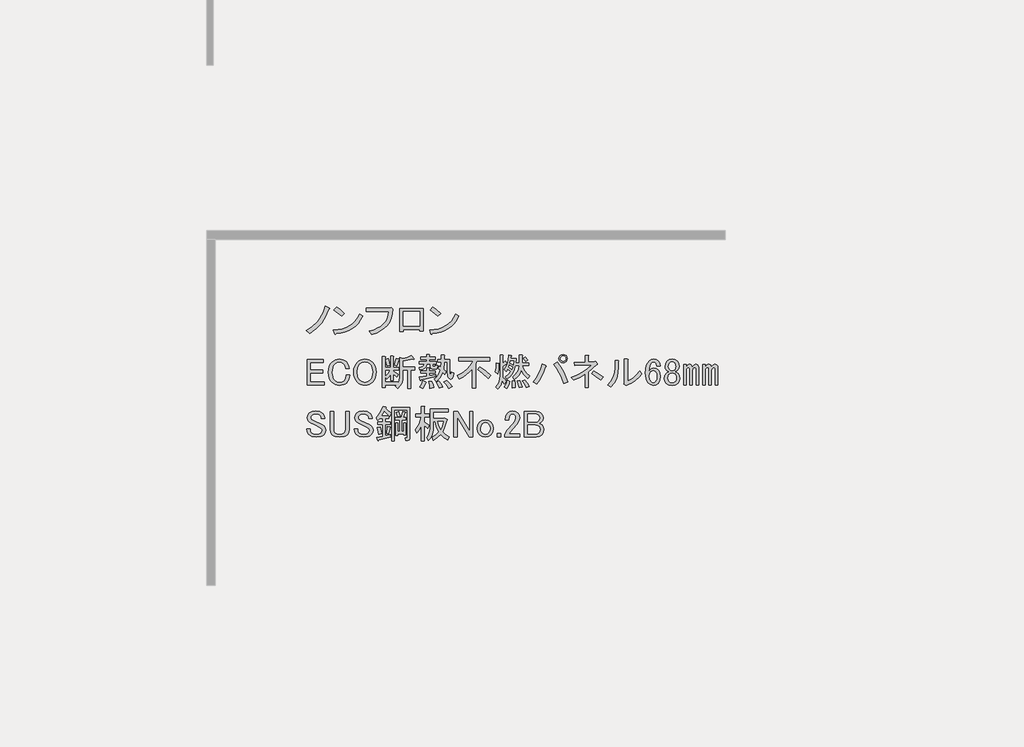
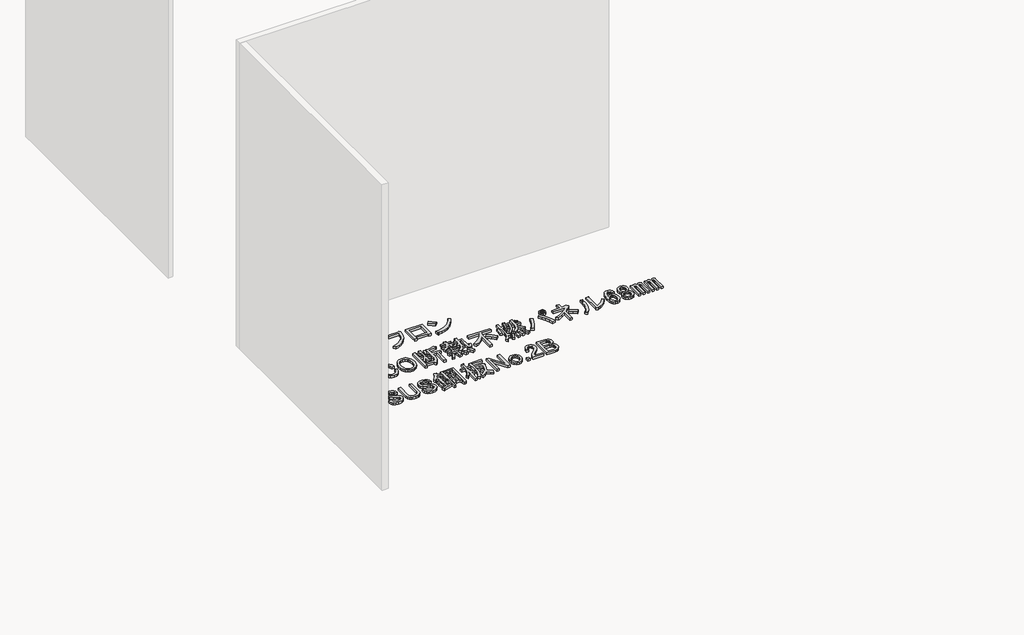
# One storey, part 103 of 117: 1 proxy.
"""IFC4 building model written with IfcOpenShell, lengths in millimetres."""

from ifc_helpers import new_model, si_unit, frame, origin, place, context, project, spatial, polyline, outline, extrude, element, save

model = new_model("IFC4")

# Units and contexts
model_context = context("Model", 3, world=origin())
ifc_project = project(units=[si_unit("LENGTHUNIT", "METRE", prefix="MILLI")], contexts=[model_context])

# Site, building, storey
site = spatial("IfcSite", under=ifc_project)
building = spatial("IfcBuilding", under=site)
storey = spatial("IfcBuildingStorey", under=building, Name="レベル 1", Elevation=500.0)

# Proxy
placement = place(None, origin())
element("IfcBuildingElementProxy", 1, Name="200㎜\u3000MS Pゴシック", ObjectType="200㎜\u3000MS Pゴシック", at=placement, inside=storey, context=model_context, shape_type="SweptSolid", body=[
    extrude(outline(polyline([(40940.1706985, 3396.4503118), (40914.5952502, 3336.6784775), (40886.146156, 3290.7001434), (40844.4782907, 3245.2965385), (40795.3389462, 3207.939142), (40767.7519457, 3229.7788507), (40815.4544673, 3260.2394971), (40855.1107805, 3298.7463519), (40872.4963381, 3322.6694538), (40887.8703435, 3350.7593423), (40901.2327969, 3383.0160173), (40912.5836981, 3419.4394788), (40943.6190736, 3405.6459786), (40946.7800841, 3401.0481452), (40940.1706985, 3396.4503118)])), frame((0.0, 0.0, 500.0), z_axis=(0.0, 0.0, 1.0), x_axis=(1.0, 0.0, 0.0)), (0.0, 0.0, 1.0), 25.0),
    extrude(outline(polyline([(41039.8977052, 3341.2763109), (40981.2753292, 3388.4041033), (41000.8161212, 3412.5427287), (41028.1157571, 3392.7145721), (41061.7374138, 3363.1160196), (41039.8977052, 3341.2763109)])), frame((0.0, 0.0, 500.0), z_axis=(0.0, 0.0, 1.0), x_axis=(1.0, 0.0, 0.0)), (0.0, 0.0, 1.0), 25.0),
    extrude(outline(polyline([(41201.9713328, 3341.2763109), (41185.447869, 3311.534076), (41166.3381239, 3285.5275808), (41144.6420975, 3263.2568252), (41120.3597898, 3244.7218093), (41093.4912008, 3229.922533), (41064.0363306, 3218.8589964), (41031.995179, 3211.5311994), (40997.3677461, 3207.939142), (40991.6204544, 3199.8929336), (40985.8731626, 3205.6402253), (40976.6774958, 3235.5261425), (41012.5082679, 3238.2022252), (41045.2857912, 3244.5062859), (41075.0100658, 3254.4383244), (41101.6810916, 3267.9983409), (41125.2988687, 3285.1863354), (41145.863397, 3306.0023077), (41163.3746766, 3330.446258), (41177.8327074, 3358.5181862), (41201.9713328, 3341.2763109)])), frame((0.0, 0.0, 500.0), z_axis=(0.0, 0.0, 1.0), x_axis=(1.0, 0.0, 0.0)), (0.0, 0.0, 1.0), 25.0),
    extrude(outline(polyline([(41252.7314136, 3226.3304757), (41286.514713, 3236.0110702), (41316.0234641, 3248.3857078), (41341.257667, 3263.4543884), (41362.2173217, 3281.217112), (41378.902428, 3301.6738786), (41391.3129862, 3324.8246882), (41399.4489961, 3350.6695409), (41403.3104577, 3379.2084365), (41230.8917049, 3379.2084365), (41230.8917049, 3404.4965202), (41405.6093744, 3404.4965202), (41421.7017914, 3407.9448953), (41434.3458332, 3396.4503118), (41430.825617, 3359.9550091), (41422.5638851, 3326.9080815), (41409.5606375, 3297.3095289), (41391.8158742, 3271.1593514), (41369.3295952, 3248.457549), (41342.1018005, 3229.2041216), (41310.1324901, 3213.3990692), (41273.421664, 3201.0423919), (41252.7314136, 3226.3304757)])), frame((0.0, 0.0, 500.0), z_axis=(0.0, 0.0, 1.0), x_axis=(1.0, 0.0, 0.0)), (0.0, 0.0, 1.0), 25.0),
    extrude(outline(polyline([(41667.455987, 3227.479934), (41641.0184449, 3227.479934), (41641.0184449, 3240.1239759), (41513.4285679, 3240.1239759), (41513.4285679, 3221.7326423), (41486.9910258, 3221.7326423), (41486.9910258, 3401.0481452), (41667.455987, 3401.0481452), (41667.455987, 3227.479934)]), holes=[polyline([(41513.4285679, 3375.7600614), (41513.4285679, 3265.4120596), (41641.0184449, 3265.4120596), (41641.0184449, 3375.7600614), (41513.4285679, 3375.7600614)])]), frame((0.0, 0.0, 500.0), z_axis=(0.0, 0.0, 1.0), x_axis=(1.0, 0.0, 0.0)), (0.0, 0.0, 1.0), 25.0),
    extrude(outline(polyline([(41943.5099049, 3341.2763109), (41926.9864411, 3311.534076), (41907.876696, 3285.5275808), (41886.1806696, 3263.2568252), (41861.8983619, 3244.7218093), (41835.0297729, 3229.922533), (41805.5749026, 3218.8589964), (41773.5337511, 3211.5311994), (41738.9063182, 3207.939142), (41733.1590264, 3199.8929336), (41727.4117347, 3205.6402253), (41718.2160679, 3235.5261425), (41754.0468399, 3238.2022252), (41786.8243633, 3244.5062859), (41816.5486378, 3254.4383244), (41843.2196637, 3267.9983409), (41866.8374407, 3285.1863354), (41887.4019691, 3306.0023077), (41904.9132486, 3330.446258), (41919.3712795, 3358.5181862), (41943.5099049, 3341.2763109)])), frame((0.0, 0.0, 500.0), z_axis=(0.0, 0.0, 1.0), x_axis=(1.0, 0.0, 0.0)), (0.0, 0.0, 1.0), 25.0),
    extrude(outline(polyline([(41781.4362772, 3341.2763109), (41722.8139013, 3388.4041033), (41742.3546933, 3412.5427287), (41769.6543291, 3392.7145721), (41803.2759859, 3363.1160196), (41781.4362772, 3341.2763109)])), frame((0.0, 0.0, 500.0), z_axis=(0.0, 0.0, 1.0), x_axis=(1.0, 0.0, 0.0)), (0.0, 0.0, 1.0), 25.0),
    extrude(outline(polyline([(40773.4992375, 3007.9448953), (40899.9396562, 3007.9448953), (40899.9396562, 2986.1051866), (40799.9367796, 2986.1051866), (40799.9367796, 2925.183894), (40893.0429061, 2925.183894), (40893.0429061, 2903.3441853), (40799.9367796, 2903.3441853), (40799.9367796, 2833.2272258), (40905.686948, 2833.2272258), (40905.686948, 2811.3875171), (40773.4992375, 2811.3875171), (40773.4992375, 3007.9448953)])), frame((0.0, 0.0, 500.0), z_axis=(0.0, 0.0, 1.0), x_axis=(1.0, 0.0, 0.0)), (0.0, 0.0, 1.0), 25.0),
    extrude(outline(polyline([(40937.7798252, 2909.091477), (40939.5758538, 2933.014579), (40944.9639399, 2954.2077173), (40953.9440832, 2972.6708921), (40966.516284, 2988.4041033), (40991.5170031, 3004.7838848), (41022.8397432, 3010.243812), (41053.5877541, 3005.358614), (41076.8642858, 2990.70302), (41092.6693381, 2967.1391238), (41098.7039944, 2937.8279358), (41071.116994, 2937.8279358), (41066.231796, 2959.0929153), (41056.1740354, 2974.6106031), (41040.9437123, 2984.9557283), (41022.8397432, 2988.4041033), (41003.2989512, 2984.3809991), (40986.0570759, 2972.3116864), (40977.0050914, 2960.6015794), (40970.5393882, 2946.1615089), (40965.3668256, 2909.091477), (40970.5393882, 2872.0214452), (40977.0050914, 2857.5813746), (40986.0570759, 2845.8712677), (41002.7242221, 2834.6640487), (41022.8397432, 2830.9283091), (41043.242629, 2834.0893196), (41058.4729521, 2843.572351), (41070.5422648, 2863.1131429), (41074.5653691, 2889.550685), (41102.1523695, 2889.550685), (41095.8303486, 2854.7795699), (41088.7899162, 2840.6268639), (41079.1632025, 2828.6293924), (41068.3151893, 2820.0802959), (41055.3119417, 2813.9737984), (41022.8397432, 2809.0886004), (40991.5170031, 2814.5485276), (40966.516284, 2830.9283091), (40953.9440832, 2846.5896791), (40944.9639399, 2864.8373305), (40939.5758538, 2885.6712631), (40937.7798252, 2909.091477)])), frame((0.0, 0.0, 500.0), z_axis=(0.0, 0.0, 1.0), x_axis=(1.0, 0.0, 0.0)), (0.0, 0.0, 1.0), 25.0),
    extrude(outline(polyline([(41133.1417667, 2910.2409354), (41134.8659542, 2933.0864201), (41140.0385168, 2953.3456236), (41148.6594544, 2971.0185457), (41160.7287671, 2986.1051866), (41173.4446501, 2996.6658352), (41187.4536738, 3004.2091557), (41202.7558381, 3008.7351479), (41219.3511431, 3010.243812), (41235.946448, 3008.7351479), (41251.2486123, 3004.2091557), (41265.257636, 2996.6658352), (41277.973519, 2986.1051866), (41290.0428317, 2971.0185457), (41298.6637694, 2953.3456236), (41303.836332, 2933.0864201), (41305.5605195, 2910.2409354), (41303.836332, 2887.3954506), (41298.6637694, 2867.1362472), (41290.0428317, 2849.463325), (41277.973519, 2834.3766841), (41265.257636, 2823.8160355), (41251.2486123, 2816.2727151), (41235.946448, 2811.7467228), (41219.3511431, 2810.2380587), (41202.7558381, 2811.7467228), (41187.4536738, 2816.2727151), (41173.4446501, 2823.8160355), (41160.7287671, 2834.3766841), (41148.6594544, 2849.463325), (41140.0385168, 2867.1362472), (41134.8659542, 2887.3954506), (41133.1417667, 2910.2409354)]), holes=[polyline([(41219.3511431, 2988.4041033), (41198.6608927, 2984.0936345), (41180.2695591, 2971.162228), (41171.7204626, 2960.0268502), (41165.6139651, 2946.1615089), (41160.7287671, 2910.2409354), (41165.6139651, 2874.3203619), (41171.7204626, 2860.4550205), (41180.2695591, 2849.3196427), (41198.6608927, 2836.3882363), (41219.3511431, 2832.0777674), (41240.0413934, 2836.3882363), (41258.432727, 2849.3196427), (41266.9818235, 2860.4550205), (41273.088321, 2874.3203619), (41277.973519, 2910.2409354), (41273.088321, 2946.1615089), (41266.9818235, 2960.0268502), (41258.432727, 2971.162228), (41240.0413934, 2984.0936345), (41219.3511431, 2988.4041033)])]), frame((0.0, 0.0, 500.0), z_axis=(0.0, 0.0, 1.0), x_axis=(1.0, 0.0, 0.0)), (0.0, 0.0, 1.0), 25.0),
    extrude(outline(polyline([(41444.3691101, 2964.2654779), (41461.6109854, 3017.1405621), (41482.3012357, 3011.3932704), (41484.0254232, 3008.2322599), (41480.002319, 3005.6459786), (41462.7604437, 2957.3687278), (41444.3691101, 2964.2654779)])), frame((0.0, 0.0, 500.0), z_axis=(0.0, 0.0, 1.0), x_axis=(1.0, 0.0, 0.0)), (0.0, 0.0, 1.0), 25.0),
    extrude(outline(polyline([(41598.3965292, 3012.5427287), (41596.6723417, 3007.9448953), (41589.2008624, 3010.243812), (41512.1871528, 2997.5997701), (41512.1871528, 2948.173061), (41604.143821, 2948.173061), (41604.143821, 2926.3333523), (41573.1084455, 2926.3333523), (41573.1084455, 2786.0994334), (41550.1192785, 2786.0994334), (41550.1192785, 2926.3333523), (41512.1871528, 2926.3333523), (41512.1871528, 2876.9066432), (41509.6008716, 2849.1041193), (41501.8420277, 2824.3189236), (41488.9106212, 2802.551056), (41470.8066522, 2783.8005167), (41453.5647769, 2803.3413086), (41463.9099021, 2812.5369755), (41374.2521506, 2812.5369755), (41374.2521506, 2790.6972668), (41351.2629836, 2790.6972668), (41351.2629836, 3029.784604), (41373.1026922, 3029.784604), (41377.9878902, 3027.4856873), (41374.2521506, 3022.8878539), (41374.2521506, 2947.0236026), (41416.7821096, 2947.0236026), (41416.7821096, 3034.3824374), (41435.1734433, 3034.3824374), (41440.0586413, 3032.0835207), (41436.3229016, 3027.4856873), (41436.3229016, 2947.0236026), (41480.002319, 2947.0236026), (41480.002319, 2928.632269), (41436.3229016, 2928.632269), (41436.3229016, 2919.4366022), (41476.5539439, 2892.9990601), (41462.7604437, 2871.1593514), (41436.3229016, 2897.5968935), (41436.3229016, 2844.7218093), (41416.7821096, 2844.7218093), (41416.7821096, 2892.9990601), (41403.5633386, 2873.1709035), (41389.1951092, 2857.3658512), (41376.5510673, 2875.7571848), (41398.390776, 2899.8958102), (41415.6326513, 2928.632269), (41374.2521506, 2928.632269), (41374.2521506, 2834.3766841), (41471.9561105, 2834.3766841), (41471.9561105, 2820.5831839), (41484.887517, 2844.7218093), (41489.1979858, 2878.0561015), (41489.1979858, 3022.8878539), (41511.0376945, 3017.1405621), (41547.2456326, 3024.6120414), (41577.7062789, 3037.8308125), (41598.3965292, 3012.5427287)])), frame((0.0, 0.0, 500.0), z_axis=(0.0, 0.0, 1.0), x_axis=(1.0, 0.0, 0.0)), (0.0, 0.0, 1.0), 25.0),
    extrude(outline(polyline([(41390.3445675, 2956.2192695), (41377.7005257, 3006.7954369), (41397.2413176, 3013.6921871), (41405.0001615, 2989.5535617), (41409.8853595, 2963.1160196), (41390.3445675, 2956.2192695)])), frame((0.0, 0.0, 500.0), z_axis=(0.0, 0.0, 1.0), x_axis=(1.0, 0.0, 0.0)), (0.0, 0.0, 1.0), 25.0),
    extrude(outline(polyline([(41734.0326148, 2840.1239759), (41744.0903754, 2812.82434), (41748.9755734, 2790.6972668), (41720.2391146, 2784.949975), (41717.6528333, 2806.5023191), (41709.8939894, 2836.6756008), (41734.0326148, 2840.1239759)])), frame((0.0, 0.0, 500.0), z_axis=(0.0, 0.0, 1.0), x_axis=(1.0, 0.0, 0.0)), (0.0, 0.0, 1.0), 25.0),
    extrude(outline(polyline([(41790.356074, 2787.2488917), (41782.022501, 2811.9622463), (41768.5163654, 2833.2272258), (41789.2066157, 2841.2734343), (41806.1611264, 2819.7210902), (41817.9430745, 2796.4445585), (41790.356074, 2787.2488917)])), frame((0.0, 0.0, 500.0), z_axis=(0.0, 0.0, 1.0), x_axis=(1.0, 0.0, 0.0)), (0.0, 0.0, 1.0), 25.0),
    extrude(outline(polyline([(41689.2037391, 2835.5261425), (41692.6521141, 2830.6409445), (41686.9048224, 2827.479934), (41677.1344264, 2801.9044857), (41666.214572, 2782.6510583), (41643.225405, 2794.1456418), (41655.8694469, 2817.709538), (41666.214572, 2844.7218093), (41689.2037391, 2835.5261425)])), frame((0.0, 0.0, 500.0), z_axis=(0.0, 0.0, 1.0), x_axis=(1.0, 0.0, 0.0)), (0.0, 0.0, 1.0), 25.0),
    extrude(outline(polyline([(41721.3885729, 2972.3116864), (41696.1004892, 2972.3116864), (41691.5026558, 2954.8542877), (41681.1575306, 2941.5636755), (41665.0651137, 2932.4398498), (41643.225405, 2927.4828107), (41638.6275716, 2947.0236026), (41663.9156553, 2955.6445403), (41671.3871346, 2962.9723373), (41675.4102388, 2972.3116864), (41639.7770299, 2972.3116864), (41639.7770299, 2990.70302), (41693.8015725, 2990.70302), (41693.8015725, 3007.9448953), (41650.1221551, 3007.9448953), (41650.1221551, 3026.3362289), (41693.8015725, 3026.3362289), (41693.8015725, 3044.7275626), (41715.6412812, 3044.7275626), (41720.5264792, 3042.4286459), (41716.7907395, 3037.8308125), (41716.7907395, 3026.3362289), (41759.3206985, 3026.3362289), (41759.3206985, 3007.9448953), (41716.7907395, 3007.9448953), (41716.7907395, 2990.70302), (41769.6658237, 2990.70302), (41769.6658237, 2972.3116864), (41740.9293649, 2972.3116864), (41740.9293649, 2959.6676445), (41742.3661878, 2954.4950819), (41746.6766567, 2952.7708944), (41757.0217818, 2952.7708944), (41760.7575215, 2955.9319049), (41760.4701569, 2965.4149363), (41780.0109489, 2963.1160196), (41777.137303, 2941.5636755), (41771.8210581, 2936.1755894), (41763.9185319, 2934.3795608), (41739.7799066, 2934.3795608), (41725.9864063, 2939.2647588), (41721.3885729, 2953.9203528), (41721.3885729, 2972.3116864)])), frame((0.0, 0.0, 500.0), z_axis=(0.0, 0.0, 1.0), x_axis=(1.0, 0.0, 0.0)), (0.0, 0.0, 1.0), 25.0),
    extrude(outline(polyline([(41852.4268251, 2989.5535617), (41830.5871164, 2989.5535617), (41825.989283, 2932.0806441), (41845.5300749, 2913.6893104), (41835.1849498, 2891.8496017), (41819.0925328, 2907.9420187), (41799.8391054, 2870.2972576), (41769.6658237, 2837.8250592), (41752.4239484, 2858.5153095), (41767.5105893, 2870.4409399), (41780.585678, 2885.5275808), (41791.6492147, 2903.7752321), (41800.7011992, 2925.183894), (41783.4593239, 2940.1268525), (41791.5055324, 2957.3687278), (41805.2990326, 2947.0236026), (41807.5979493, 2989.5535617), (41780.0109489, 2989.5535617), (41780.0109489, 3007.9448953), (41807.5979493, 3007.9448953), (41807.5979493, 3042.4286459), (41829.437658, 3042.4286459), (41834.322856, 3040.1297292), (41830.5871164, 3035.5318957), (41830.5871164, 3007.9448953), (41871.967617, 3007.9448953), (41871.967617, 2911.3903937), (41875.4159921, 2887.2517683), (41878.6488437, 2885.2402162), (41881.4506484, 2888.4012267), (41885.7611173, 2910.2409354), (41905.3019092, 2903.3441853), (41900.775917, 2876.5474374), (41892.945232, 2860.5268616), (41881.8098542, 2855.2824579), (41867.3697836, 2860.8142262), (41860.8322393, 2868.1420232), (41856.1625647, 2879.780289), (41852.4268251, 2915.9882271), (41852.4268251, 2989.5535617)])), frame((0.0, 0.0, 500.0), z_axis=(0.0, 0.0, 1.0), x_axis=(1.0, 0.0, 0.0)), (0.0, 0.0, 1.0), 25.0),
    extrude(outline(polyline([(41651.2716134, 2850.4691011), (41649.2600613, 2845.5839031), (41645.5243217, 2847.020726), (41639.7770299, 2871.1593514), (41694.9510308, 2879.2055599), (41694.9510308, 2902.1947269), (41651.2716134, 2902.1947269), (41651.2716134, 2920.5860605), (41694.9510308, 2920.5860605), (41694.9510308, 2943.5752276), (41713.3423645, 2943.5752276), (41718.2275625, 2941.2763109), (41714.4918228, 2936.6784775), (41714.4918228, 2920.5860605), (41759.3206985, 2920.5860605), (41759.3206985, 2902.1947269), (41714.4918228, 2902.1947269), (41714.4918228, 2882.6539349), (41765.0679903, 2891.8496017), (41765.0679903, 2875.7571848), (41651.2716134, 2850.4691011)])), frame((0.0, 0.0, 500.0), z_axis=(0.0, 0.0, 1.0), x_axis=(1.0, 0.0, 0.0)), (0.0, 0.0, 1.0), 25.0),
    extrude(outline(polyline([(41848.97845, 2845.8712677), (41873.6918046, 2824.6062881), (41892.6578674, 2799.8929336), (41866.2203253, 2784.949975), (41846.9668979, 2814.5485276), (41828.2881997, 2834.3766841), (41848.97845, 2845.8712677)])), frame((0.0, 0.0, 500.0), z_axis=(0.0, 0.0, 1.0), x_axis=(1.0, 0.0, 0.0)), (0.0, 0.0, 1.0), 25.0),
    extrude(outline(polyline([(42167.3784135, 2861.9636846), (42128.2968295, 2900.1831748), (42086.9163289, 2929.7817274), (42103.0087458, 2950.4719777), (42146.6881632, 2922.3102481), (42188.0686638, 2883.8033933), (42167.3784135, 2861.9636846)])), frame((0.0, 0.0, 500.0), z_axis=(0.0, 0.0, 1.0), x_axis=(1.0, 0.0, 0.0)), (0.0, 0.0, 1.0), 25.0),
    extrude(outline(polyline([(41940.9351182, 3022.8878539), (42182.3213721, 3022.8878539), (42182.3213721, 2997.5997701), (42082.3184955, 2997.5997701), (42071.9733703, 2973.4611447), (42071.9733703, 2787.2488917), (42045.5358282, 2787.2488917), (42045.5358282, 2934.3795608), (42024.7018956, 2911.1030291), (42001.2816816, 2890.7001434), (41975.2751864, 2873.1709035), (41946.6824099, 2858.5153095), (41930.589993, 2884.9528516), (41970.174465, 2905.3557374), (42003.8679629, 2930.9311857), (42031.6704868, 2961.6791966), (42053.5820367, 2997.5997701), (41940.9351182, 2997.5997701), (41940.9351182, 3022.8878539)])), frame((0.0, 0.0, 500.0), z_axis=(0.0, 0.0, 1.0), x_axis=(1.0, 0.0, 0.0)), (0.0, 0.0, 1.0), 25.0),
    extrude(outline(polyline([(42354.7401249, 2788.3983501), (42355.3148541, 2815.4106213), (42352.4412082, 2843.572351), (42371.9820002, 2844.7218093), (42378.3040211, 2818.5716318), (42378.8787503, 2790.6972668), (42354.7401249, 2788.3983501)])), frame((0.0, 0.0, 500.0), z_axis=(0.0, 0.0, 1.0), x_axis=(1.0, 0.0, 0.0)), (0.0, 0.0, 1.0), 25.0),
    extrude(outline(polyline([(42335.1993329, 2840.1239759), (42326.5783953, 2809.6633296), (42312.2101659, 2782.6510583), (42292.6693739, 2795.2951002), (42306.7502387, 2820.0084547), (42316.8079993, 2848.1701844), (42335.1993329, 2840.1239759)])), frame((0.0, 0.0, 500.0), z_axis=(0.0, 0.0, 1.0), x_axis=(1.0, 0.0, 0.0)), (0.0, 0.0, 1.0), 25.0),
    extrude(outline(polyline([(42250.1394149, 2978.0589781), (42254.7372483, 2975.7600614), (42250.1394149, 2971.162228), (42248.9899565, 2931.5059149), (42243.2426647, 2897.5968935), (42224.8513311, 2910.2409354), (42230.5986229, 2944.7246859), (42231.7480812, 2981.5073532), (42250.1394149, 2978.0589781)])), frame((0.0, 0.0, 500.0), z_axis=(0.0, 0.0, 1.0), x_axis=(1.0, 0.0, 0.0)), (0.0, 0.0, 1.0), 25.0),
    extrude(outline(polyline([(42301.8650407, 2996.4503118), (42311.0607075, 2979.2084365), (42312.4975305, 2973.1737801), (42307.6123325, 2973.4611447), (42281.1747904, 2952.7708944), (42281.1747904, 2868.8604347), (42294.9682906, 2856.5037574), (42306.4628741, 2840.1239759), (42293.8188322, 2819.4337256), (42275.4274986, 2844.7218093), (42263.6455505, 2808.8012358), (42242.0932064, 2779.2026832), (42227.1502478, 2797.5940169), (42242.2368887, 2816.3445562), (42253.0130607, 2836.9629654), (42259.478764, 2859.4492444), (42261.6339984, 2883.8033933), (42261.6339984, 3041.2791875), (42280.025332, 3041.2791875), (42284.91053, 3038.9802708), (42281.1747904, 3034.3824374), (42281.1747904, 2975.7600614), (42301.8650407, 2996.4503118)])), frame((0.0, 0.0, 500.0), z_axis=(0.0, 0.0, 1.0), x_axis=(1.0, 0.0, 0.0)), (0.0, 0.0, 1.0), 25.0),
    extrude(outline(polyline([(42452.4440848, 3027.4856873), (42474.2837935, 3003.3470619), (42457.0419182, 2991.8524784), (42450.4325327, 3003.3470619), (42437.5011262, 3017.1405621), (42452.4440848, 3027.4856873)])), frame((0.0, 0.0, 500.0), z_axis=(0.0, 0.0, 1.0), x_axis=(1.0, 0.0, 0.0)), (0.0, 0.0, 1.0), 25.0),
    extrude(outline(polyline([(42462.78921, 2790.6972668), (42449.5704389, 2818.8589964), (42432.9032928, 2843.572351), (42451.2946265, 2851.6185594), (42470.2606893, 2828.6293924), (42485.778377, 2801.0423919), (42462.78921, 2790.6972668)])), frame((0.0, 0.0, 500.0), z_axis=(0.0, 0.0, 1.0), x_axis=(1.0, 0.0, 0.0)), (0.0, 0.0, 1.0), 25.0),
    extrude(outline(polyline([(42413.3625008, 2845.8712677), (42431.7538345, 2796.4445585), (42407.6152091, 2791.8467251), (42393.8217089, 2842.4228926), (42413.3625008, 2845.8712677)])), frame((0.0, 0.0, 500.0), z_axis=(0.0, 0.0, 1.0), x_axis=(1.0, 0.0, 0.0)), (0.0, 0.0, 1.0), 25.0),
    extrude(outline(polyline([(42474.2837935, 2860.8142262), (42443.5357826, 2891.2748726), (42422.5581677, 2925.183894), (42414.1527535, 2903.0568207), (42402.7300111, 2883.8033933), (42388.2899405, 2867.4236118), (42370.8325418, 2853.9174761), (42357.0390416, 2872.3088098), (42377.8729742, 2891.2030314), (42393.2469797, 2912.2524875), (42403.161058, 2935.457178), (42407.6152091, 2960.8171029), (42378.8787503, 2960.8171029), (42370.904383, 2930.2127742), (42357.3264062, 2902.7694561), (42338.1448199, 2878.4871484), (42313.3596242, 2857.3658512), (42300.7155823, 2873.4582681), (42326.5783953, 2895.0106122), (42342.096083, 2915.9882271), (42320.2563743, 2935.5290191), (42306.4628741, 2914.8387688), (42292.6693739, 2929.7817274), (42305.0978923, 2948.8196313), (42314.7964472, 2973.7485093), (42321.7650384, 3004.5683614), (42326.0036661, 3041.2791875), (42346.6939164, 3038.9802708), (42350.1422915, 3036.3939895), (42344.3949997, 3033.232979), (42342.096083, 3014.8416454), (42385.7755004, 3014.8416454), (42382.3271253, 2979.2084365), (42407.6152091, 2979.2084365), (42407.6152091, 3041.2791875), (42429.4549178, 3041.2791875), (42434.3401158, 3038.9802708), (42430.6043761, 3034.3824374), (42430.6043761, 2979.2084365), (42480.0310853, 2979.2084365), (42480.0310853, 2960.8171029), (42430.6043761, 2960.8171029), (42437.1419205, 2939.0492353), (42448.7083452, 2918.5745084), (42465.3036501, 2899.3929222), (42486.9278354, 2881.5044766), (42474.2837935, 2860.8142262)]), holes=[polyline([(42350.1422915, 2930.9311857), (42357.0390416, 2950.4719777), (42331.7509579, 2966.5643946), (42326.0036661, 2949.3225193), (42350.1422915, 2930.9311857)]), polyline([(42339.7971663, 2996.4503118), (42336.3487913, 2980.3578948), (42361.636875, 2966.5643946), (42366.2347084, 2996.4503118), (42339.7971663, 2996.4503118)])]), frame((0.0, 0.0, 500.0), z_axis=(0.0, 0.0, 1.0), x_axis=(1.0, 0.0, 0.0)), (0.0, 0.0, 1.0), 25.0),
    extrude(outline(polyline([(42699.5776305, 2987.254645), (42726.230696, 2950.5438188), (42748.7169751, 2912.8272167), (42767.0364675, 2874.1048384), (42781.1891735, 2834.3766841), (42750.153798, 2824.031559), (42734.7079514, 2867.1362472), (42717.1068704, 2905.643102), (42697.350555, 2939.5521234), (42675.4390051, 2968.8633113), (42699.5776305, 2987.254645)])), frame((0.0, 0.0, 500.0), z_axis=(0.0, 0.0, 1.0), x_axis=(1.0, 0.0, 0.0)), (0.0, 0.0, 1.0), 25.0),
    extrude(outline(polyline([(42612.2187958, 2960.8171029), (42616.2419, 2955.3571757), (42609.919879, 2950.4719777), (42597.9942486, 2915.0542922), (42582.9076078, 2881.217112), (42564.6599564, 2848.960437), (42543.2512946, 2818.2842672), (42516.8137525, 2835.5261425), (42540.018443, 2866.9925649), (42559.056347, 2900.4705394), (42573.9274644, 2935.960066), (42584.6317953, 2973.4611447), (42612.2187958, 2960.8171029)])), frame((0.0, 0.0, 500.0), z_axis=(0.0, 0.0, 1.0), x_axis=(1.0, 0.0, 0.0)), (0.0, 0.0, 1.0), 25.0),
    extrude(outline(polyline([(42745.5559646, 2981.5073532), (42732.9119227, 2983.8062699), (42722.5667975, 2990.70302), (42715.6700474, 3001.0481452), (42713.3711307, 3013.6921871), (42715.6700474, 3026.3362289), (42722.5667975, 3036.6813541), (42732.9119227, 3043.5781042), (42745.5559646, 3045.8770209), (42758.2000065, 3043.5781042), (42768.5451316, 3036.6813541), (42775.4418817, 3026.3362289), (42777.7407984, 3013.6921871), (42775.4418817, 3001.0481452), (42768.5451316, 2990.70302), (42758.2000065, 2983.8062699), (42745.5559646, 2981.5073532)]), holes=[polyline([(42745.5559646, 2993.0019367), (42753.8895376, 2994.4387597), (42760.4989232, 2998.7492285), (42764.809392, 3005.358614), (42766.2462149, 3013.6921871), (42764.809392, 3022.0257601), (42760.4989232, 3028.6351456), (42753.8895376, 3032.9456145), (42745.5559646, 3034.3824374), (42737.2223915, 3032.9456145), (42730.613006, 3028.6351456), (42726.3025372, 3022.0257601), (42724.8657143, 3013.6921871), (42726.3025372, 3005.358614), (42730.613006, 2998.7492285), (42737.2223915, 2994.4387597), (42745.5559646, 2993.0019367)])]), frame((0.0, 0.0, 500.0), z_axis=(0.0, 0.0, 1.0), x_axis=(1.0, 0.0, 0.0)), (0.0, 0.0, 1.0), 25.0),
    extrude(outline(polyline([(42989.2411352, 2991.8524784), (42996.1378853, 2994.1513951), (43008.7819272, 2976.9095198), (43009.9313856, 2970.8748634), (43004.1840938, 2968.8633113), (42940.9638844, 2912.5398521), (42940.9638844, 2791.8467251), (42914.5263423, 2791.8467251), (42914.5263423, 2894.1485184), (42874.2953, 2870.0098931), (42829.4664243, 2848.1701844), (42809.9256323, 2868.8604347), (42855.4729195, 2888.3293855), (42896.7097379, 2911.1030291), (42933.6360874, 2937.1813655), (42966.2519682, 2966.5643946), (42836.3631744, 2960.8171029), (42832.9147993, 2986.1051866), (42914.5263423, 2988.4041033), (42914.5263423, 3040.1297292), (42937.5155094, 3040.1297292), (42943.5501657, 3036.6813541), (42940.9638844, 3030.9340623), (42940.9638844, 2989.5535617), (42989.2411352, 2991.8524784)])), frame((0.0, 0.0, 500.0), z_axis=(0.0, 0.0, 1.0), x_axis=(1.0, 0.0, 0.0)), (0.0, 0.0, 1.0), 25.0),
    extrude(outline(polyline([(43035.2194693, 2848.1701844), (42998.1494375, 2877.4813723), (42965.1025098, 2898.7463519), (42982.3443851, 2920.5860605), (43021.1386045, 2897.3095289), (43054.7602613, 2871.1593514), (43035.2194693, 2848.1701844)])), frame((0.0, 0.0, 500.0), z_axis=(0.0, 0.0, 1.0), x_axis=(1.0, 0.0, 0.0)), (0.0, 0.0, 1.0), 25.0),
    extrude(outline(polyline([(43242.2139293, 2841.2734343), (43266.9991251, 2853.4864292), (43290.7785447, 2870.5846222), (43313.5521883, 2892.5680132), (43335.3200559, 2919.4366022), (43351.4124728, 2897.5968935), (43328.1359412, 2869.7943696), (43301.9857636, 2846.1586322), (43272.9619403, 2826.6896814), (43241.064471, 2811.3875171), (43231.8688042, 2806.7896837), (43213.4774705, 2820.5831839), (43215.7763872, 2826.3304757), (43215.7763872, 3011.3932704), (43239.9150126, 3011.3932704), (43245.6623044, 3007.9448953), (43242.2139293, 3002.1976035), (43242.2139293, 2841.2734343)])), frame((0.0, 0.0, 500.0), z_axis=(0.0, 0.0, 1.0), x_axis=(1.0, 0.0, 0.0)), (0.0, 0.0, 1.0), 25.0),
    extrude(outline(polyline([(43088.1865102, 2810.2380587), (43113.3309116, 2839.4774056), (43131.2911984, 2872.0214452), (43142.0673704, 2907.8701775), (43145.6594278, 2947.0236026), (43145.6594278, 2998.7492285), (43169.7980532, 2998.7492285), (43175.5453449, 2995.3008534), (43172.0969699, 2989.5535617), (43172.0969699, 2948.173061), (43168.2893891, 2902.4102504), (43156.8666467, 2861.67632), (43137.8287427, 2825.9712699), (43111.1756772, 2795.2951002), (43088.1865102, 2810.2380587)])), frame((0.0, 0.0, 500.0), z_axis=(0.0, 0.0, 1.0), x_axis=(1.0, 0.0, 0.0)), (0.0, 0.0, 1.0), 25.0),
    extrude(outline(polyline([(43380.1489316, 2905.643102), (43381.8731191, 2935.0261311), (43387.0456817, 2959.9550091), (43395.6666193, 2980.429736), (43407.735932, 2996.4503118), (43423.2536198, 3006.7954369), (43442.2196826, 3010.243812), (43462.0478392, 3006.7954369), (43477.8528915, 2996.4503118), (43489.0601104, 2979.4958011), (43492.7958501, 2958.5181862), (43466.358308, 2958.5181862), (43464.6341205, 2972.3116864), (43459.4615579, 2981.5073532), (43451.702714, 2986.6799158), (43442.2196826, 2988.4041033), (43432.7366512, 2986.6799158), (43424.9778073, 2981.5073532), (43416.9315989, 2970.5874989), (43411.1843071, 2956.2192695), (43406.5864737, 2917.1376855), (43418.0810572, 2932.0806441), (43429.5756407, 2939.8394879), (43443.3691409, 2942.4257692), (43462.3352038, 2938.9773942), (43477.8528915, 2928.632269), (43490.784298, 2907.0799249), (43495.0947668, 2876.9066432), (43490.4969334, 2845.5839031), (43476.7034332, 2822.8821006), (43460.3236516, 2812.5369755), (43438.7713075, 2809.0886004), (43418.943151, 2813.3990692), (43400.8391819, 2826.3304757), (43391.7871974, 2839.0463587), (43385.3214942, 2856.5037574), (43380.1489316, 2905.643102)]), holes=[polyline([(43441.0702242, 2921.7355189), (43430.4377345, 2919.7239668), (43421.5294323, 2913.6893104), (43412.0464009, 2898.7463519), (43408.8853904, 2879.2055599), (43412.3337654, 2855.0669345), (43422.6788906, 2837.8250592), (43431.0124637, 2831.7904028), (43439.9207659, 2829.7788507), (43449.4037973, 2831.5030383), (43457.1626412, 2836.6756008), (43464.921485, 2851.905924), (43467.5077663, 2876.9066432), (43464.921485, 2899.321081), (43457.1626412, 2913.6893104), (43449.1164327, 2919.7239668), (43441.0702242, 2921.7355189)])]), frame((0.0, 0.0, 500.0), z_axis=(0.0, 0.0, 1.0), x_axis=(1.0, 0.0, 0.0)), (0.0, 0.0, 1.0), 25.0),
    extrude(outline(polyline([(43530.7279757, 2955.0698111), (43534.7510799, 2978.0589781), (43546.8203926, 2996.4503118), (43563.2001741, 3006.7954369), (43584.7525182, 3010.243812), (43606.5922269, 3006.5080724), (43623.8341022, 2995.3008534), (43635.0413212, 2977.7716136), (43638.7770608, 2955.0698111), (43635.3286857, 2936.9658421), (43624.9835606, 2921.7355189), (43611.1900603, 2913.6893104), (43611.1900603, 2911.3903937), (43621.2478209, 2907.3672895), (43630.7308523, 2899.8958102), (43641.0759775, 2883.8033933), (43644.5243526, 2863.1131429), (43640.5012483, 2841.8481634), (43628.4319356, 2824.031559), (43610.040602, 2812.82434), (43584.7525182, 2809.0886004), (43559.4644345, 2812.82434), (43541.0731009, 2824.031559), (43529.0037882, 2841.8481634), (43524.9806839, 2863.1131429), (43528.429059, 2883.8033933), (43538.7741842, 2899.8958102), (43548.2572156, 2907.3672895), (43558.3149762, 2911.3903937), (43558.3149762, 2913.6893104), (43543.3720176, 2924.0344356), (43533.8889862, 2938.1153004), (43530.7279757, 2955.0698111)]), holes=[polyline([(43584.7525182, 2989.5535617), (43574.1200285, 2987.5420095), (43565.2117263, 2981.5073532), (43558.3149762, 2970.3001343), (43556.0160594, 2955.0698111), (43558.3149762, 2940.7015817), (43565.2117263, 2929.7817274), (43573.8326639, 2923.747071), (43583.6030599, 2921.7355189), (43595.6723726, 2923.4597064), (43604.2933102, 2928.632269), (43611.1900603, 2939.8394879), (43613.488977, 2955.0698111), (43611.1900603, 2970.3001343), (43604.2933102, 2981.5073532), (43595.385008, 2987.5420095), (43584.7525182, 2989.5535617)]), polyline([(43584.7525182, 2902.1947269), (43571.2463826, 2899.8958102), (43560.6138929, 2892.9990601), (43553.7171427, 2881.7918412), (43551.418226, 2866.561518), (43554.0045073, 2851.0438302), (43561.7633512, 2838.9745175), (43572.1084764, 2832.0777674), (43584.7525182, 2829.7788507), (43597.3965601, 2832.0777674), (43607.7416853, 2838.9745175), (43615.5005292, 2851.0438302), (43618.0868105, 2866.561518), (43615.5005292, 2882.0792058), (43607.7416853, 2894.1485184), (43597.9712893, 2900.1831748), (43584.7525182, 2902.1947269)])]), frame((0.0, 0.0, 500.0), z_axis=(0.0, 0.0, 1.0), x_axis=(1.0, 0.0, 0.0)), (0.0, 0.0, 1.0), 25.0),
    extrude(outline(polyline([(43692.8016033, 2810.2380587), (43673.2608114, 2810.2380587), (43673.2608114, 2967.713853), (43692.8016033, 2967.713853), (43692.8016033, 2950.4719777), (43704.870916, 2965.9896654), (43718.0896871, 2971.162228), (43727.2853539, 2969.7254051), (43734.182104, 2965.4149363), (43741.0788541, 2951.621436), (43754.0102606, 2966.27703), (43767.5163962, 2971.162228), (43775.8499693, 2969.7254051), (43782.4593548, 2965.4149363), (43787.6319174, 2956.7939986), (43789.3561049, 2944.7246859), (43789.3561049, 2810.2380587), (43769.8153129, 2810.2380587), (43769.8153129, 2934.3795608), (43767.2290316, 2943.8625922), (43759.4701878, 2947.0236026), (43749.1250626, 2942.4257692), (43743.0904062, 2933.8048316), (43741.0788541, 2924.0344356), (43741.0788541, 2810.2380587), (43721.5380621, 2810.2380587), (43721.5380621, 2934.3795608), (43718.9517808, 2943.8625922), (43711.192937, 2947.0236026), (43700.8478118, 2942.4257692), (43694.8131555, 2933.8048316), (43692.8016033, 2924.0344356), (43692.8016033, 2810.2380587)])), frame((0.0, 0.0, 500.0), z_axis=(0.0, 0.0, 1.0), x_axis=(1.0, 0.0, 0.0)), (0.0, 0.0, 1.0), 25.0),
    extrude(outline(polyline([(43914.6470653, 2971.162228), (43922.9806383, 2969.7254051), (43929.5900239, 2965.4149363), (43934.7625864, 2956.7939986), (43936.486774, 2944.7246859), (43936.486774, 2810.2380587), (43916.945982, 2810.2380587), (43916.945982, 2934.3795608), (43914.3597007, 2943.8625922), (43906.6008568, 2947.0236026), (43896.2557317, 2942.4257692), (43890.2210753, 2933.8048316), (43888.2095232, 2924.0344356), (43888.2095232, 2810.2380587), (43868.6687312, 2810.2380587), (43868.6687312, 2934.3795608), (43866.0824499, 2943.8625922), (43858.323606, 2947.0236026), (43847.9784809, 2942.4257692), (43841.9438245, 2933.8048316), (43839.9322724, 2924.0344356), (43839.9322724, 2810.2380587), (43820.3914804, 2810.2380587), (43820.3914804, 2967.713853), (43839.9322724, 2967.713853), (43839.9322724, 2950.4719777), (43852.0015851, 2965.9896654), (43865.2203561, 2971.162228), (43874.416023, 2969.7254051), (43881.3127731, 2965.4149363), (43888.2095232, 2951.621436), (43901.1409296, 2966.27703), (43914.6470653, 2971.162228)])), frame((0.0, 0.0, 500.0), z_axis=(0.0, 0.0, 1.0), x_axis=(1.0, 0.0, 0.0)), (0.0, 0.0, 1.0), 25.0),
    extrude(outline(polyline([(40775.7981542, 2556.2192695), (40779.8212584, 2576.6221552), (40791.8905711, 2594.1513951), (40812.2934569, 2606.2207078), (40841.3172803, 2610.243812), (40872.6400204, 2605.6459786), (40895.3418228, 2591.8524784), (40907.4111355, 2574.3232385), (40911.4342397, 2553.9203528), (40884.9966976, 2553.9203528), (40882.6977809, 2566.5643946), (40875.8010308, 2576.9095198), (40862.5822598, 2584.6683637), (40843.616197, 2587.254645), (40823.2133112, 2584.9557283), (40810.2819048, 2578.0589781), (40804.2472484, 2569.4380405), (40802.2356963, 2559.6676445), (40806.8335297, 2544.7246859), (40827.52378, 2533.2301024), (40887.2956143, 2506.7925603), (40904.5374896, 2495.2979768), (40914.020521, 2481.5044766), (40917.1815315, 2465.4120596), (40913.1584273, 2444.1470801), (40901.0891146, 2426.3304757), (40891.1031951, 2418.7871552), (40878.3873121, 2413.3990692), (40844.7656553, 2409.0886004), (40811.1439985, 2414.261163), (40797.5660217, 2420.7268662), (40786.1432794, 2429.7788507), (40774.9360604, 2448.1701844), (40771.2003208, 2473.4582681), (40797.6378629, 2473.4582681), (40799.9367796, 2455.6416637), (40806.8335297, 2443.572351), (40822.9259466, 2434.0893196), (40845.9151137, 2430.9283091), (40866.8927286, 2433.801955), (40881.5483226, 2442.4228926), (40888.4450727, 2451.6185594), (40890.7439894, 2460.8142262), (40889.0198019, 2470.2972576), (40883.8472393, 2478.0561015), (40865.4559057, 2489.550685), (40835.5699885, 2503.3441853), (40802.2356963, 2518.2871438), (40786.1432794, 2528.632269), (40778.3844355, 2540.7015817), (40775.7981542, 2556.2192695)])), frame((0.0, 0.0, 500.0), z_axis=(0.0, 0.0, 1.0), x_axis=(1.0, 0.0, 0.0)), (0.0, 0.0, 1.0), 25.0),
    extrude(outline(polyline([(40951.2054987, 2607.9448953), (40977.6430408, 2607.9448953), (40977.6430408, 2470.0098931), (40980.2293221, 2455.3542991), (40987.988166, 2443.572351), (41003.5058537, 2434.0893196), (41024.7708332, 2430.9283091), (41046.0358128, 2434.0893196), (41061.5535005, 2443.572351), (41069.3123444, 2455.3542991), (41071.8986257, 2470.0098931), (41071.8986257, 2607.9448953), (41098.3361678, 2607.9448953), (41098.3361678, 2468.8604347), (41094.3130635, 2445.8712677), (41082.2437508, 2427.479934), (41071.7549434, 2419.4337256), (41058.6798546, 2413.6864338), (41024.7708332, 2409.0886004), (40990.8618119, 2413.6864338), (40977.7867231, 2419.4337256), (40967.2979156, 2427.479934), (40955.2286029, 2445.8712677), (40951.2054987, 2468.8604347), (40951.2054987, 2607.9448953)])), frame((0.0, 0.0, 500.0), z_axis=(0.0, 0.0, 1.0), x_axis=(1.0, 0.0, 0.0)), (0.0, 0.0, 1.0), 25.0),
    extrude(outline(polyline([(41140.6822135, 2556.2192695), (41144.7053177, 2576.6221552), (41156.7746304, 2594.1513951), (41177.1775161, 2606.2207078), (41206.2013395, 2610.243812), (41237.5240796, 2605.6459786), (41260.2258821, 2591.8524784), (41272.2951948, 2574.3232385), (41276.318299, 2553.9203528), (41249.8807569, 2553.9203528), (41247.5818402, 2566.5643946), (41240.6850901, 2576.9095198), (41227.466319, 2584.6683637), (41208.5002562, 2587.254645), (41188.0973705, 2584.9557283), (41175.165964, 2578.0589781), (41169.1313077, 2569.4380405), (41167.1197556, 2559.6676445), (41171.717589, 2544.7246859), (41192.4078393, 2533.2301024), (41252.1796736, 2506.7925603), (41269.4215489, 2495.2979768), (41278.9045803, 2481.5044766), (41282.0655908, 2465.4120596), (41278.0424865, 2444.1470801), (41265.9731738, 2426.3304757), (41255.9872544, 2418.7871552), (41243.2713714, 2413.3990692), (41209.6497146, 2409.0886004), (41176.0280578, 2414.261163), (41162.450081, 2420.7268662), (41151.0273386, 2429.7788507), (41139.8201197, 2448.1701844), (41136.0843801, 2473.4582681), (41162.5219222, 2473.4582681), (41164.8208389, 2455.6416637), (41171.717589, 2443.572351), (41187.8100059, 2434.0893196), (41210.7991729, 2430.9283091), (41231.7767879, 2433.801955), (41246.4323819, 2442.4228926), (41253.329132, 2451.6185594), (41255.6280487, 2460.8142262), (41253.9038611, 2470.2972576), (41248.7312986, 2478.0561015), (41230.3399649, 2489.550685), (41200.4540478, 2503.3441853), (41167.1197556, 2518.2871438), (41151.0273386, 2528.632269), (41143.2684948, 2540.7015817), (41140.6822135, 2556.2192695)])), frame((0.0, 0.0, 500.0), z_axis=(0.0, 0.0, 1.0), x_axis=(1.0, 0.0, 0.0)), (0.0, 0.0, 1.0), 25.0),
    extrude(outline(polyline([(41410.3451429, 2568.8633113), (41368.9646422, 2612.5427287), (41347.1249335, 2573.4611447), (41402.2989344, 2573.4611447), (41402.2989344, 2555.0698111), (41375.8613923, 2555.0698111), (41375.8613923, 2526.3333523), (41413.7935179, 2526.3333523), (41413.7935179, 2507.9420187), (41375.8613923, 2507.9420187), (41375.8613923, 2420.5831839), (41414.9429763, 2430.9283091), (41417.241893, 2411.3875171), (41325.2852248, 2386.0994334), (41322.9863081, 2380.3521416), (41318.3884747, 2383.8005167), (41311.4917246, 2406.7896837), (41356.3206003, 2415.9853505), (41356.3206003, 2507.9420187), (41318.3884747, 2507.9420187), (41318.3884747, 2526.3333523), (41356.3206003, 2526.3333523), (41356.3206003, 2555.0698111), (41334.4808916, 2555.0698111), (41319.537933, 2536.6784775), (41306.8938912, 2557.3687278), (41335.0556208, 2595.0134888), (41359.7689754, 2645.8770209), (41381.6086841, 2640.1297292), (41385.0570591, 2636.3939895), (41379.3097674, 2634.3824374), (41378.160309, 2630.9340623), (41422.9891847, 2593.0019367), (41410.3451429, 2568.8633113)])), frame((0.0, 0.0, 500.0), z_axis=(0.0, 0.0, 1.0), x_axis=(1.0, 0.0, 0.0)), (0.0, 0.0, 1.0), 25.0),
    extrude(outline(polyline([(41478.1631856, 2605.6459786), (41485.3473003, 2590.4156554), (41490.8072275, 2570.0127697), (41473.5653522, 2564.2654779), (41462.0707687, 2601.0481452), (41478.1631856, 2605.6459786)])), frame((0.0, 0.0, 500.0), z_axis=(0.0, 0.0, 1.0), x_axis=(1.0, 0.0, 0.0)), (0.0, 0.0, 1.0), 25.0),
    extrude(outline(polyline([(41531.0382698, 2604.4965202), (41533.6245511, 2601.0481452), (41527.5898948, 2597.5997701), (41514.9458529, 2559.6676445), (41535.6361032, 2559.6676445), (41535.6361032, 2541.2763109), (41504.6007277, 2541.2763109), (41504.6007277, 2452.7680178), (41519.5436863, 2452.7680178), (41519.5436863, 2520.5860605), (41535.6361032, 2520.5860605), (41535.6361032, 2426.3304757), (41519.5436863, 2426.3304757), (41519.5436863, 2434.3766841), (41473.5653522, 2434.3766841), (41473.5653522, 2421.7326423), (41457.4729353, 2421.7326423), (41457.4729353, 2518.2871438), (41473.5653522, 2518.2871438), (41473.5653522, 2452.7680178), (41488.5083108, 2452.7680178), (41488.5083108, 2541.2763109), (41452.8751019, 2541.2763109), (41452.8751019, 2559.6676445), (41498.853436, 2559.6676445), (41509.1985611, 2609.0943537), (41531.0382698, 2604.4965202)])), frame((0.0, 0.0, 500.0), z_axis=(0.0, 0.0, 1.0), x_axis=(1.0, 0.0, 0.0)), (0.0, 0.0, 1.0), 25.0),
    extrude(outline(polyline([(41425.2881014, 2637.8308125), (41565.5220204, 2637.8308125), (41565.5220204, 2397.5940169), (41561.7862807, 2386.3867979), (41550.5790618, 2382.6510583), (41534.4866449, 2382.6510583), (41529.8888115, 2404.490767), (41541.383395, 2404.490767), (41544.83177, 2405.6402253), (41545.9812284, 2409.0886004), (41545.9812284, 2619.4394788), (41444.8288934, 2619.4394788), (41444.8288934, 2380.3521416), (41425.2881014, 2380.3521416), (41425.2881014, 2637.8308125)])), frame((0.0, 0.0, 500.0), z_axis=(0.0, 0.0, 1.0), x_axis=(1.0, 0.0, 0.0)), (0.0, 0.0, 1.0), 25.0),
    extrude(outline(polyline([(41413.7935179, 2489.550685), (41416.3797992, 2486.3896746), (41412.6440596, 2483.8033933), (41404.5978511, 2436.6756008), (41386.2065175, 2438.9745175), (41391.9538092, 2492.9990601), (41413.7935179, 2489.550685)])), frame((0.0, 0.0, 500.0), z_axis=(0.0, 0.0, 1.0), x_axis=(1.0, 0.0, 0.0)), (0.0, 0.0, 1.0), 25.0),
    extrude(outline(polyline([(41336.7798083, 2488.4012267), (41348.2743918, 2436.6756008), (41327.5841415, 2430.9283091), (41316.089558, 2482.6539349), (41336.7798083, 2488.4012267)])), frame((0.0, 0.0, 500.0), z_axis=(0.0, 0.0, 1.0), x_axis=(1.0, 0.0, 0.0)), (0.0, 0.0, 1.0), 25.0),
    extrude(outline(polyline([(41736.7913148, 2409.0886004), (41765.5277736, 2426.3304757), (41787.3674823, 2448.1701844), (41769.5508779, 2490.1254142), (41759.7804819, 2530.9311857), (41747.13644, 2530.9311857), (41747.13644, 2506.7925603), (41744.693841, 2465.0528539), (41737.366044, 2430.6409445), (41725.153049, 2403.5568321), (41708.054856, 2383.8005167), (41694.2613558, 2406.7896837), (41707.3364446, 2424.1752413), (41716.6757937, 2446.4459968), (41722.2794031, 2473.6019504), (41724.147273, 2505.643102), (41724.147273, 2626.3362289), (41860.9328169, 2626.3362289), (41860.9328169, 2604.4965202), (41747.13644, 2604.4965202), (41747.13644, 2552.7708944), (41826.4490663, 2552.7708944), (41832.1963581, 2558.5181862), (41851.73715, 2544.7246859), (41853.173973, 2540.9889463), (41848.288775, 2536.6784775), (41835.9320977, 2490.1254142), (41817.2533995, 2449.3196427), (41836.2194623, 2430.9283091), (41867.829567, 2412.5369755), (41858.6339002, 2388.3983501), (41830.7595351, 2404.490767), (41802.3104409, 2429.7788507), (41777.8844509, 2405.3528608), (41745.9869817, 2384.949975), (41736.7913148, 2409.0886004)]), holes=[polyline([(41781.6201906, 2530.9311857), (41789.666399, 2497.8842581), (41802.3104409, 2470.0098931), (41814.9544828, 2496.1600706), (41823.0006912, 2530.9311857), (41781.6201906, 2530.9311857)])]), frame((0.0, 0.0, 500.0), z_axis=(0.0, 0.0, 1.0), x_axis=(1.0, 0.0, 0.0)), (0.0, 0.0, 1.0), 25.0),
    extrude(outline(polyline([(41654.0303135, 2380.3521416), (41654.0303135, 2499.8958102), (41636.213709, 2465.6994242), (41617.2476462, 2443.572351), (41605.7530627, 2464.2626013), (41622.994938, 2486.9644037), (41636.7884382, 2511.3903937), (41647.1335634, 2537.5405712), (41654.0303135, 2565.4149363), (41612.6498128, 2565.4149363), (41612.6498128, 2587.254645), (41654.0303135, 2587.254645), (41654.0303135, 2647.0264793), (41675.8700222, 2647.0264793), (41680.7552202, 2644.7275626), (41677.0194805, 2640.1297292), (41677.0194805, 2587.254645), (41714.9516061, 2587.254645), (41714.9516061, 2565.4149363), (41677.0194805, 2565.4149363), (41677.0194805, 2525.183894), (41714.9516061, 2498.7463519), (41704.606481, 2475.7571848), (41677.0194805, 2498.7463519), (41677.0194805, 2380.3521416), (41654.0303135, 2380.3521416)])), frame((0.0, 0.0, 500.0), z_axis=(0.0, 0.0, 1.0), x_axis=(1.0, 0.0, 0.0)), (0.0, 0.0, 1.0), 25.0),
    extrude(outline(polyline([(41904.6122342, 2607.9448953), (41933.348693, 2607.9448953), (42025.3053612, 2452.7680178), (42025.3053612, 2607.9448953), (42051.7429033, 2607.9448953), (42051.7429033, 2411.3875171), (42023.0064445, 2411.3875171), (41931.0497763, 2566.5643946), (41931.0497763, 2411.3875171), (41904.6122342, 2411.3875171), (41904.6122342, 2607.9448953)])), frame((0.0, 0.0, 500.0), z_axis=(0.0, 0.0, 1.0), x_axis=(1.0, 0.0, 0.0)), (0.0, 0.0, 1.0), 25.0),
    extrude(outline(polyline([(42084.8932822, 2475.7571848), (42089.7784802, 2503.0568207), (42104.4340742, 2525.183894), (42123.6875015, 2538.1153004), (42146.9640332, 2542.4257692), (42170.2405648, 2538.1153004), (42189.4939922, 2525.183894), (42204.1495862, 2503.0568207), (42209.0347842, 2475.7571848), (42204.1495862, 2448.457549), (42189.4939922, 2426.3304757), (42170.2405648, 2413.3990692), (42146.9640332, 2409.0886004), (42123.6875015, 2413.3990692), (42104.4340742, 2426.3304757), (42089.7784802, 2448.457549), (42084.8932822, 2475.7571848)]), holes=[polyline([(42146.9640332, 2521.7355189), (42134.3199913, 2519.4366022), (42123.9748661, 2512.5398521), (42113.629741, 2496.4474352), (42110.1813659, 2475.7571848), (42113.3423764, 2455.3542991), (42122.8254078, 2440.1239759), (42134.0326267, 2432.365132), (42146.9640332, 2429.7788507), (42159.8954396, 2432.365132), (42171.1026586, 2440.1239759), (42180.58569, 2455.3542991), (42183.7467004, 2475.7571848), (42180.2983254, 2496.4474352), (42169.9532002, 2512.5398521), (42159.6080751, 2519.4366022), (42146.9640332, 2521.7355189)])]), frame((0.0, 0.0, 500.0), z_axis=(0.0, 0.0, 1.0), x_axis=(1.0, 0.0, 0.0)), (0.0, 0.0, 1.0), 25.0),
    extrude(outline(polyline([(42239.564398, 2436.6756008), (42266.0019401, 2436.6756008), (42266.0019401, 2411.3875171), (42239.564398, 2411.3875171), (42239.564398, 2436.6756008)])), frame((0.0, 0.0, 500.0), z_axis=(0.0, 0.0, 1.0), x_axis=(1.0, 0.0, 0.0)), (0.0, 0.0, 1.0), 25.0),
    extrude(outline(polyline([(42300.7155823, 2541.2763109), (42305.3134158, 2572.599051), (42319.106916, 2595.3008534), (42335.4866975, 2606.5080724), (42354.7401249, 2610.243812), (42377.4419273, 2606.5080724), (42394.9711672, 2595.3008534), (42406.1783861, 2578.6337073), (42409.9141258, 2558.5181862), (42405.603657, 2532.6553732), (42392.6722505, 2510.2409354), (42359.3379583, 2472.3088098), (42340.9466247, 2451.6185594), (42327.1531244, 2433.2272258), (42413.3625008, 2433.2272258), (42413.3625008, 2411.3875171), (42296.1177489, 2411.3875171), (42296.1177489, 2430.9283091), (42302.1524053, 2444.7218093), (42315.6585409, 2463.1131429), (42362.7863334, 2514.8387688), (42377.4419273, 2536.1037483), (42382.3271253, 2558.5181862), (42380.0282086, 2571.162228), (42373.1314585, 2581.5073532), (42365.3726147, 2586.6799158), (42355.8895832, 2588.4041033), (42347.2686456, 2586.6799158), (42339.7971663, 2581.5073532), (42330.3141349, 2565.1275717), (42327.1531244, 2541.2763109), (42300.7155823, 2541.2763109)])), frame((0.0, 0.0, 500.0), z_axis=(0.0, 0.0, 1.0), x_axis=(1.0, 0.0, 0.0)), (0.0, 0.0, 1.0), 25.0),
    extrude(outline(polyline([(42447.8462514, 2607.9448953), (42539.8029196, 2607.9448953), (42560.7805345, 2604.2091557), (42577.7350452, 2593.0019367), (42588.0801704, 2576.9095198), (42591.5285454, 2556.2192695), (42588.3675349, 2539.2647588), (42578.8845035, 2525.183894), (42561.6426283, 2514.8387688), (42583.482337, 2502.1947269), (42593.8274621, 2486.6770392), (42597.2758372, 2467.7109763), (42592.9653684, 2444.4344447), (42580.0339619, 2425.1810173), (42562.7920866, 2414.8358922), (42538.6534612, 2411.3875171), (42447.8462514, 2411.3875171), (42447.8462514, 2607.9448953)]), holes=[polyline([(42474.2837935, 2586.1051866), (42474.2837935, 2525.183894), (42536.3545445, 2525.183894), (42546.9870343, 2527.1954461), (42555.8953365, 2533.2301024), (42562.7920866, 2543.8625922), (42565.0910033, 2557.3687278), (42562.7920866, 2569.1506759), (42555.8953365, 2579.2084365), (42548.1364926, 2584.3809991), (42538.6534612, 2586.1051866), (42474.2837935, 2586.1051866)]), polyline([(42474.2837935, 2503.3441853), (42474.2837935, 2433.2272258), (42532.9061695, 2433.2272258), (42548.1364926, 2435.5261425), (42559.3437116, 2442.4228926), (42567.1025554, 2453.9174761), (42569.6888367, 2467.7109763), (42567.38992, 2482.0792058), (42560.4931699, 2492.9990601), (42548.4238572, 2500.757904), (42532.9061695, 2503.3441853), (42474.2837935, 2503.3441853)])]), frame((0.0, 0.0, 500.0), z_axis=(0.0, 0.0, 1.0), x_axis=(1.0, 0.0, 0.0)), (0.0, 0.0, 1.0), 25.0),
])

save(model, "model.ifc")
